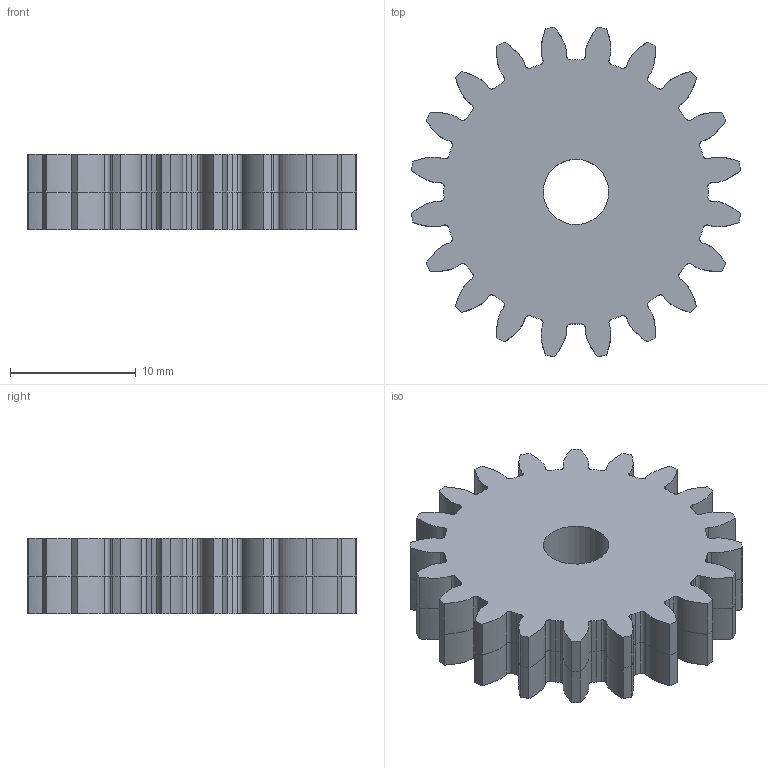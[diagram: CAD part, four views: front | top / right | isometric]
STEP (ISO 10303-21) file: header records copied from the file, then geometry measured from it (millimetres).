
FILE_DESCRIPTION(('Open CASCADE Model'),'2;1');
FILE_NAME('T_idler','2026-11-05T16:12:18',('Author'),('Open CASCADE'), 'Open CASCADE STEP processor 7.9','build123d','Unknown');
FILE_SCHEMA(('AUTOMOTIVE_DESIGN { 1 0 10303 214 1 1 1 1 }'));
Length unit declared in the file: millimetre
Products named in the file (2): T_idler
Assembly tree (1 placements, depth 2):
  T_idler
    T_idler
Bounding box: 26.18 x 26.18 x 6 mm (x, y, z)
Volume: 2491.3 mm3; surface area: 1843 mm2
Topology: 1 solids, 1 shells, 283 faces, 703 edges, 422 vertices
Faces by surface type: cylinder 201, extrusion 80, plane 2
Full cylindrical faces by diameter (mm): 5.2 x1
Entity records: 24134 total; most frequent: CARTESIAN_POINT 9816, DIRECTION 2701, VECTOR 1485, ORIENTED_EDGE 1406, PCURVE 1406, DEFINITIONAL_REPRESENTATION 1406, LINE 1405, EDGE_CURVE 703
